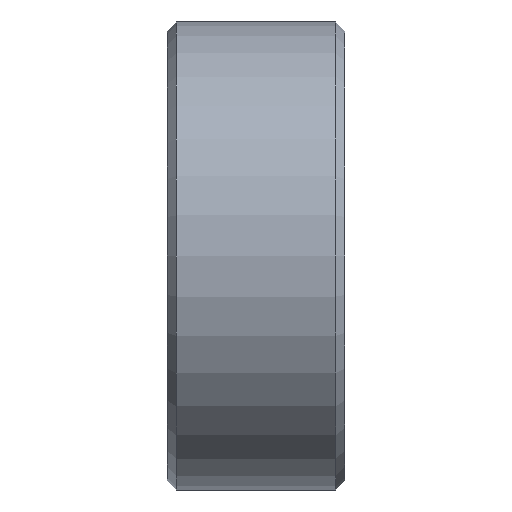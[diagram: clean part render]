
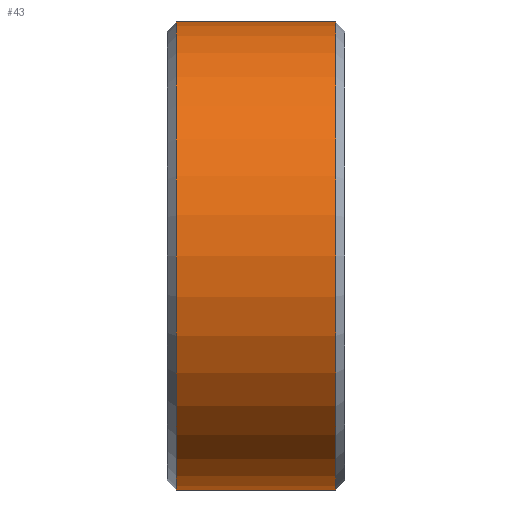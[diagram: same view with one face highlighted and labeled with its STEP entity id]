
A CAD part, left-side view. The second image highlights one B-rep face of the part: STEP entity #43.
In plain terms, the highlighted cylindrical face has radius 12.5 mm (diameter 25 mm), a partial arc.
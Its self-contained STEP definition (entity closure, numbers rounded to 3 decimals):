
#7 = DIRECTION ( 'NONE',  ( 0., 0., 1. ) ) ;
#18 = LINE ( 'NONE', #1107, #550 ) ;
#39 = CARTESIAN_POINT ( 'NONE',  ( 0., -4.25, -12.5 ) ) ;
#43 = ADVANCED_FACE ( 'NONE', ( #1023 ), #891, .T. ) ;
#62 = VERTEX_POINT ( 'NONE', #647 ) ;
#90 = ORIENTED_EDGE ( 'NONE', *, *, #554, .T. ) ;
#175 = DIRECTION ( 'NONE',  ( 0., 0., -1. ) ) ;
#180 = CARTESIAN_POINT ( 'NONE',  ( 0., 4.75, 0. ) ) ;
#187 = ORIENTED_EDGE ( 'NONE', *, *, #974, .F. ) ;
#194 = DIRECTION ( 'NONE',  ( 0., -1., 0. ) ) ;
#202 = ORIENTED_EDGE ( 'NONE', *, *, #249, .T. ) ;
#249 = EDGE_CURVE ( 'NONE', #1130, #62, #754, .T. ) ;
#259 = CIRCLE ( 'NONE', #418, 12.5 ) ;
#260 = DIRECTION ( 'NONE',  ( 0., -1., 0. ) ) ;
#276 = VERTEX_POINT ( 'NONE', #778 ) ;
#309 = EDGE_LOOP ( 'NONE', ( #90, #202, #187, #652 ) ) ;
#320 = VERTEX_POINT ( 'NONE', #1144 ) ;
#344 = DIRECTION ( 'NONE',  ( 0., -1., 0. ) ) ;
#418 = AXIS2_PLACEMENT_3D ( 'NONE', #949, #194, #1041 ) ;
#468 = AXIS2_PLACEMENT_3D ( 'NONE', #180, #260, #175 ) ;
#499 = CARTESIAN_POINT ( 'NONE',  ( 0., 4.75, 12.5 ) ) ;
#550 = VECTOR ( 'NONE', #344, 1000. ) ;
#554 = EDGE_CURVE ( 'NONE', #320, #1130, #18, .T. ) ;
#594 = DIRECTION ( 'NONE',  ( 0., -1., 0. ) ) ;
#647 = CARTESIAN_POINT ( 'NONE',  ( 0., -4.25, 12.5 ) ) ;
#652 = ORIENTED_EDGE ( 'NONE', *, *, #859, .T. ) ;
#732 = LINE ( 'NONE', #499, #1027 ) ;
#754 = CIRCLE ( 'NONE', #1085, 12.5 ) ;
#778 = CARTESIAN_POINT ( 'NONE',  ( 0., 4.25, 12.5 ) ) ;
#859 = EDGE_CURVE ( 'NONE', #276, #320, #259, .T. ) ;
#891 = CYLINDRICAL_SURFACE ( 'NONE', #468, 12.5 ) ;
#949 = CARTESIAN_POINT ( 'NONE',  ( 0., 4.25, 0. ) ) ;
#972 = DIRECTION ( 'NONE',  ( 0., 1., 0. ) ) ;
#974 = EDGE_CURVE ( 'NONE', #276, #62, #732, .T. ) ;
#977 = CARTESIAN_POINT ( 'NONE',  ( 0., -4.25, 0. ) ) ;
#1023 = FACE_OUTER_BOUND ( 'NONE', #309, .T. ) ;
#1027 = VECTOR ( 'NONE', #594, 1000. ) ;
#1041 = DIRECTION ( 'NONE',  ( 0., 0., 1. ) ) ;
#1085 = AXIS2_PLACEMENT_3D ( 'NONE', #977, #972, #7 ) ;
#1107 = CARTESIAN_POINT ( 'NONE',  ( 0., 4.75, -12.5 ) ) ;
#1130 = VERTEX_POINT ( 'NONE', #39 ) ;
#1144 = CARTESIAN_POINT ( 'NONE',  ( 0., 4.25, -12.5 ) ) ;
